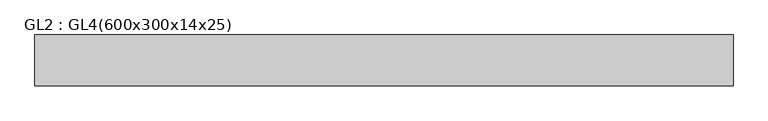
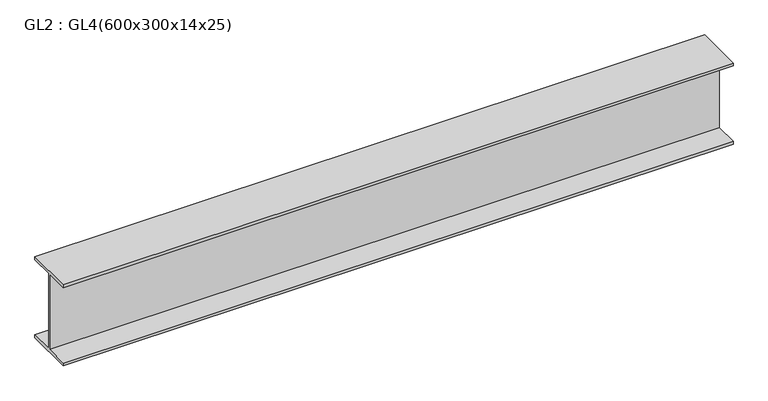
"""IFC4 building model written with IfcOpenShell, lengths in millimetres: beam geometry, GL2 : GL4(600x300x14x25)."""

from ifc_helpers import new_model, si_unit, frame, origin, place, context, project, spatial, polyline, outline, extrude, source, transform, mapped, element, save


def gl2_gl4_600x300x14x25_a68726c0(model_context):
    return source(origin(), model_context, "Body", "SweptSolid", [
        extrude(outline(polyline([(200.0, 350.0), (200.0, 325.0), (7.0, 325.0), (7.0, -325.0), (200.0, -325.0), (200.0, -350.0), (-200.0, -350.0), (-200.0, -325.0), (-7.0, -325.0), (-7.0, 325.0), (-200.0, 325.0), (-200.0, 350.0), (200.0, 350.0)])), frame((-2735.1499588, 0.0, 0.0), z_axis=(1.0, 0.0, 0.0), x_axis=(0.0, 1.0, 0.0)), (0.0, 0.0, 1.0), 5470.2999177),
    ])


if __name__ == "__main__":
    model = new_model("IFC4")
    model_context = context("Model", 3, world=origin())
    ifc_project = project(units=[si_unit("LENGTHUNIT", "METRE", prefix="MILLI")], contexts=[model_context])
    site = spatial("IfcSite", under=ifc_project)
    building = spatial("IfcBuilding", under=site)
    placement = place(None, origin())
    gl2_gl4_600x300x14x25_shape = gl2_gl4_600x300x14x25_a68726c0(model_context)
    element("IfcBeam", 1, ObjectType="GL2 : GL4(600x300x14x25)", at=placement, inside=building, context=model_context, shape_type="MappedRepresentation", body=[
        mapped(gl2_gl4_600x300x14x25_shape, transform((0.0, 0.0, 0.0), x_axis=(1.0, 0.0, 0.0), y_axis=(0.0, 1.0, 0.0), z_axis=(0.0, 0.0, 1.0))),
    ])
    save(model, "model.ifc")
